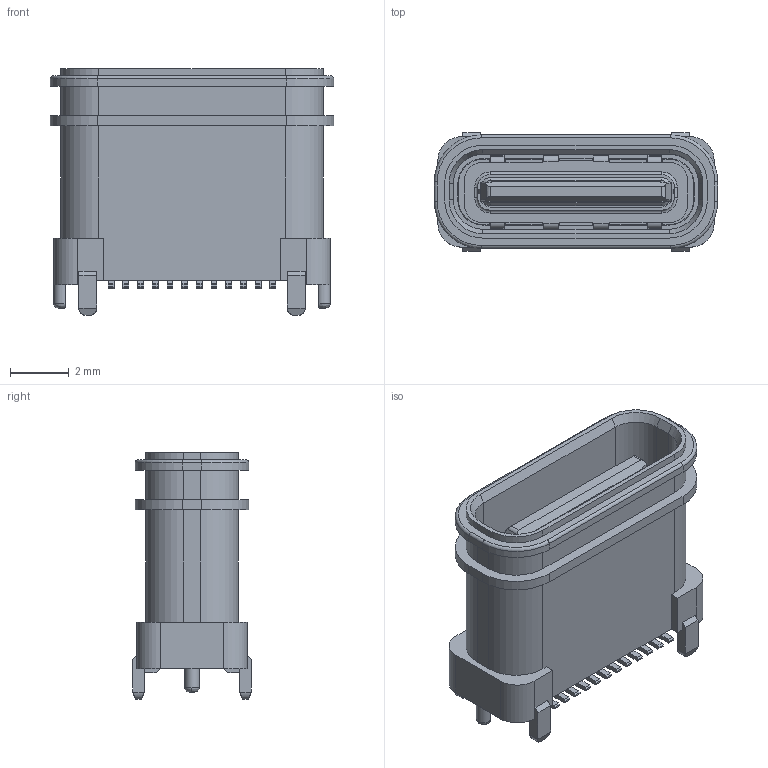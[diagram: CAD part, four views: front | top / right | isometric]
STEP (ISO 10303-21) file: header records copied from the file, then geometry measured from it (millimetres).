
FILE_DESCRIPTION((''),'2;1');
FILE_NAME('10400012','2023-06-30T17:02:13',('Administrator'),(''),'CREO PARAMETRIC BY PTC INC, 2019080','CREO PARAMETRIC BY PTC INC, 2019080','');
FILE_SCHEMA(('CONFIG_CONTROL_DESIGN'));
Length unit declared in the file: millimetre
Products named in the file (1): 10400012
Bounding box: 9.64 x 4.04 x 8.4 mm (x, y, z)
Volume: 120.1 mm3; surface area: 569.3 mm2
Topology: 1 solids, 8 shells, 1112 faces, 3107 edges, 1999 vertices
Faces by surface type: plane 811, cylinder 237, cone 36, torus 20, bspline 8
Entity records: 35778 total; most frequent: CARTESIAN_POINT 6916, ORIENTED_EDGE 6210, DIRECTION 5758, EDGE_CURVE 3105, VECTOR 2444, LINE 2444, VERTEX_POINT 1999, AXIS2_PLACEMENT_3D 1657
